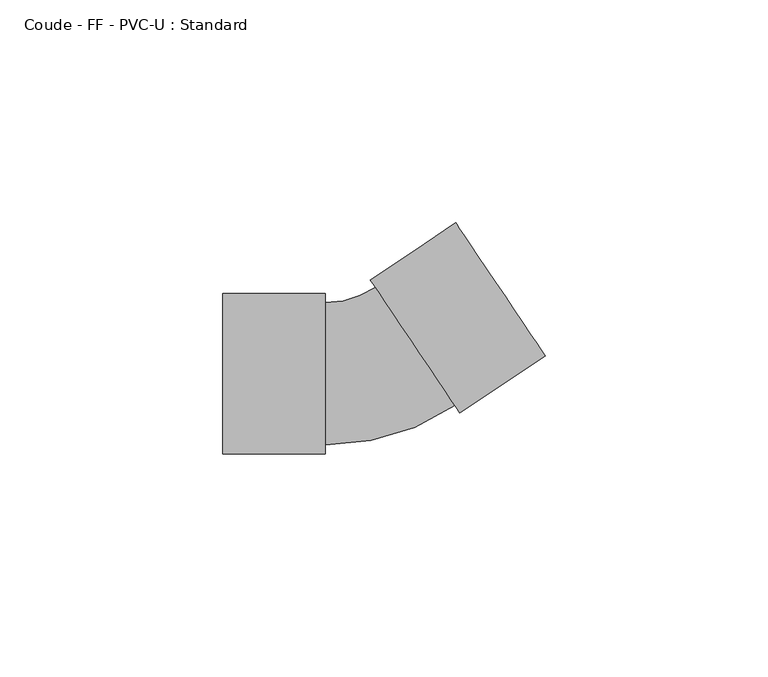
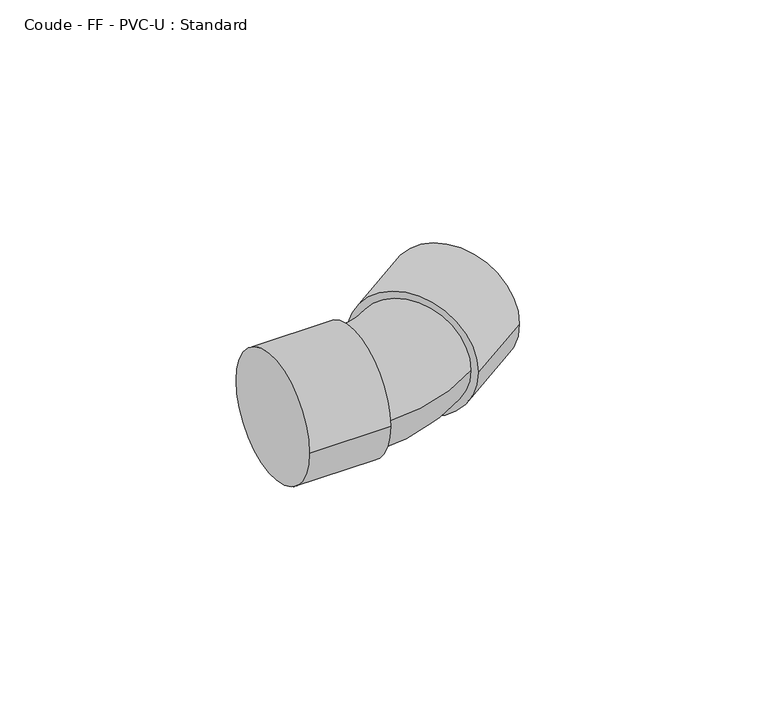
"""IFC4 building model written with IfcOpenShell, lengths in millimetres: pipe fitting geometry, Coude - FF - PVC-U : Standard."""

from ifc_helpers import new_model, si_unit, point, frame, origin, place, context, project, spatial, circle_curve, ellipse_curve, trimmed, source, transform, mapped, element, save
from ifc_brep_helpers import plane_surface, cylinder_surface, revolved_surface, advanced_brep


def coude_ff_pvc_u_standard_2eac1543(model_context):
    return source(origin(), model_context, "Body", "AdvancedBrep", [
        advanced_brep(
        [(-34.0, -18.0, 0.0), (-34.0, 18.0, 0.0), (-11.0, -18.0, 0.0), (-11.0, 18.0, 0.0), (-11.0, -16.0, 0.0), (-11.0, 16.0, 0.0), (0.206642, 19.4153882, 0.0), (18.0538991, -7.1453989, 0.0), (19.1693527, -8.8054481, 0.0), (-0.9088115, 21.0754374, 0.0), (38.2599185, 4.0222679, 0.0), (18.1817542, 33.9031534, 0.0)],
        [
            (0, 1, circle_curve(frame((-34.0, 0.0, 0.0), z_axis=(-1.0, 0.0, 0.0), x_axis=(0.0, 1.0, 0.0)), 18.0)),
            (1, 0, circle_curve(frame((-34.0, 0.0, 0.0), z_axis=(-1.0, 0.0, 0.0), x_axis=(0.0, 1.0, 0.0)), 18.0)),
            (2, 3, circle_curve(frame((-11.0, 0.0, 0.0), z_axis=(1.0, 0.0, 0.0), x_axis=(0.0, 1.0, 0.0)), 18.0)),
            (3, 2, circle_curve(frame((-11.0, 0.0, 0.0), z_axis=(1.0, 0.0, 0.0), x_axis=(0.0, 1.0, 0.0)), 18.0)),
            (4, 5, circle_curve(frame((-11.0, 0.0, 0.0), z_axis=(-1.0, 0.0, 0.0), x_axis=(0.0, 1.0, 0.0)), 16.0)),
            (5, 4, circle_curve(frame((-11.0, 0.0, 0.0), z_axis=(-1.0, 0.0, 0.0), x_axis=(0.0, 1.0, 0.0)), 16.0)),
            (0, 2),
            (3, 1),
            (6, 5, circle_curve(frame((-11.0, 36.0934263, 0.0), z_axis=(0.0, 0.0, -1.0), x_axis=(0.0, -1.0, 0.0)), 20.0934263)),
            (4, 7, circle_curve(frame((-11.0, 36.0934263, 0.0), z_axis=(0.0, 0.0, 1.0), x_axis=(0.0, -1.0, 0.0)), 52.0934263)),
            (7, 6, circle_curve(frame((9.1302706, 6.1349946, 0.0), z_axis=(-0.8300245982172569, -0.5577267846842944, 0.0), x_axis=(-0.5577267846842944, 0.8300245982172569, 0.0)), 16.0)),
            (6, 7, circle_curve(frame((9.1302706, 6.1349946, 0.0), z_axis=(-0.8300245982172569, -0.5577267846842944, 0.0), x_axis=(-0.5577267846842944, 0.8300245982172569, 0.0)), 16.0)),
            (8, 9, circle_curve(frame((9.1302706, 6.1349946, 0.0), z_axis=(-0.8300245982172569, -0.5577267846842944, 0.0), x_axis=(-0.5577267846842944, 0.8300245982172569, 0.0)), 18.0)),
            (9, 8, circle_curve(frame((9.1302706, 6.1349946, 0.0), z_axis=(-0.8300245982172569, -0.5577267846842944, 0.0), x_axis=(-0.5577267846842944, 0.8300245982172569, 0.0)), 18.0)),
            (10, 11, circle_curve(frame((28.2208363, 18.9627107, 0.0), z_axis=(0.8300245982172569, 0.5577267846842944, 0.0), x_axis=(-0.5577267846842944, 0.8300245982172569, 0.0)), 18.0)),
            (11, 10, circle_curve(frame((28.2208363, 18.9627107, 0.0), z_axis=(0.8300245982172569, 0.5577267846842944, 0.0), x_axis=(-0.5577267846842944, 0.8300245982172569, 0.0)), 18.0)),
            (8, 10),
            (11, 9),
        ],
        [
            plane_surface(frame((-34.0, 0.0, 0.0), z_axis=(-1.0, 0.0, 0.0), x_axis=(0.0, 0.0, 1.0))),
            plane_surface(frame((-11.0, 0.0, 0.0), z_axis=(1.0, 0.0, 0.0), x_axis=(0.0, 0.0, 1.0))),
            cylinder_surface(frame((-34.0, 0.0, 0.0), z_axis=(-1.0, 0.0, 0.0), x_axis=(0.0, 1.0, 0.0)), 18.0),
            revolved_surface(trimmed(ellipse_curve(frame((-11.0, 0.0, 0.0), z_axis=(-1.0, 0.0, 0.0), x_axis=(0.0, 1.0, 0.0)), 16.0, 16.0), [point((-11.0, -16.0, 0.0))], [point((-11.0, 16.0, 0.0))], True, "CARTESIAN"), (-11.0, 36.0934263, 0.0), (0.0, 0.0, 1.0)),
            revolved_surface(trimmed(ellipse_curve(frame((-11.0, 0.0, 0.0), z_axis=(-1.0, 0.0, 0.0), x_axis=(0.0, 1.0, 0.0)), 16.0, 16.0), [point((-11.0, 16.0, 0.0))], [point((-11.0, -16.0, 0.0))], True, "CARTESIAN"), (-11.0, 36.0934263, 0.0), (0.0, 0.0, 1.0)),
            plane_surface(frame((9.1302706, 6.1349946, 0.0), z_axis=(-0.8300245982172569, -0.5577267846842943, 0.0), x_axis=(0.0, 0.0, 1.0))),
            plane_surface(frame((28.2208363, 18.9627107, 0.0), z_axis=(0.8300245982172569, 0.5577267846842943, 0.0), x_axis=(0.0, 0.0, 1.0))),
            cylinder_surface(frame((9.1302706, 6.1349946, 0.0), z_axis=(-0.8300245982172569, -0.5577267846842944, 0.0), x_axis=(-0.5577267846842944, 0.8300245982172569, 0.0)), 18.0),
        ],
        [
            (0, [[1, 2]]),
            (1, [[3, 4], [5, 6]]),
            (2, [[-1, 7, -4, 8]]),
            (2, [[-2, -8, -3, -7]]),
            (3, [[9, -5, 10, 11]]),
            (4, [[-9, 12, -10, -6]]),
            (5, [[13, 14], [-11, -12]]),
            (6, [[15, 16]]),
            (7, [[-13, 17, -16, 18]]),
            (7, [[-14, -18, -15, -17]]),
        ],
    ),
    ])


if __name__ == "__main__":
    model = new_model("IFC4")
    model_context = context("Model", 3, world=origin())
    ifc_project = project(units=[si_unit("LENGTHUNIT", "METRE", prefix="MILLI")], contexts=[model_context])
    site = spatial("IfcSite", under=ifc_project)
    building = spatial("IfcBuilding", under=site)
    placement = place(None, origin())
    coude_ff_pvc_u_standard_shape = coude_ff_pvc_u_standard_2eac1543(model_context)
    element("IfcPipeFitting", 1, ObjectType="Coude - FF - PVC-U : Standard", at=placement, inside=building, context=model_context, shape_type="MappedRepresentation", body=[
        mapped(coude_ff_pvc_u_standard_shape, transform((0.0, 0.0, 0.0), x_axis=(1.0, 0.0, 0.0), y_axis=(0.0, 1.0, 0.0), z_axis=(0.0, 0.0, 1.0))),
    ])
    save(model, "model.ifc")
